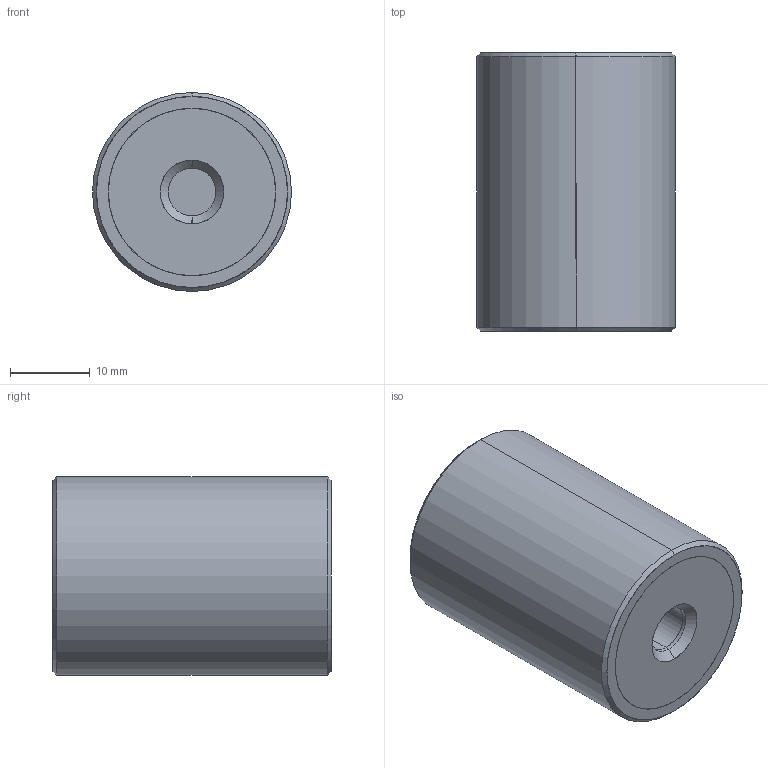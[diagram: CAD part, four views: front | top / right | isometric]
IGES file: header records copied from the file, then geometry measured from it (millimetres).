
Start section: SolidWorks IGES file using analytic representation for surfaces
Global section: file name: E:\WIXROYD 20180701\61080_v2\61080_v2_20180409_IGES\61080.W0254.igs; native system: SolidWorks 2017; preprocessor: SolidWorks 2017; author: liam_; date: 180716.214344; units: millimetre
Bounding box: 25 x 35 x 25 mm (x, y, z)
Surface area: 5558.9 mm2 (no closed solid volume)
Topology: 0 solids, 0 shells, 36 faces, 680 edges, 680 vertices
Faces by surface type: revolution 26, bspline 10
